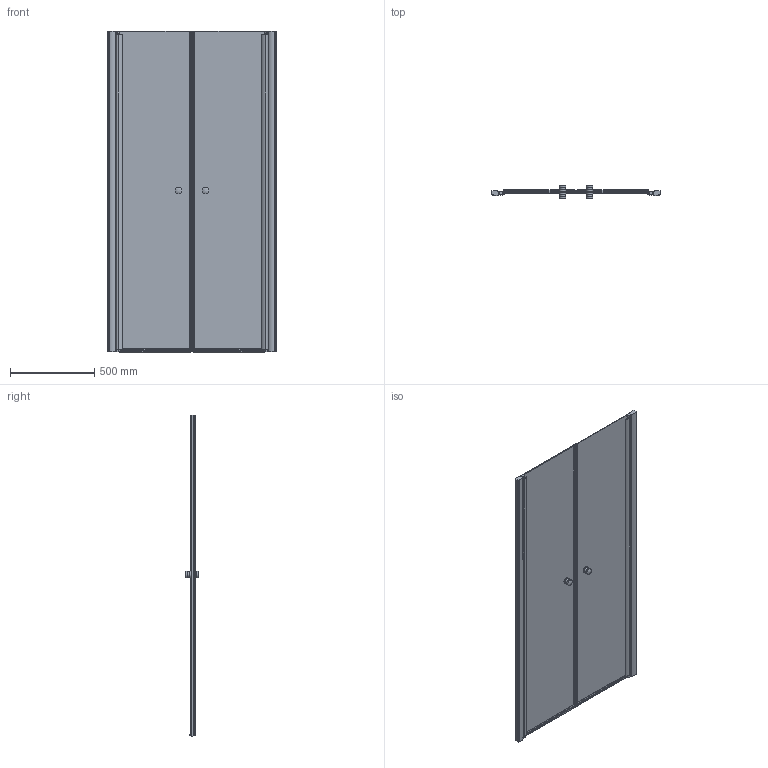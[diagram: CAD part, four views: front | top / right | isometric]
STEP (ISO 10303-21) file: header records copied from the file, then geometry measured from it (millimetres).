
FILE_DESCRIPTION(/* description */ (''),/* implementation_level */ '2;1');
FILE_NAME(/* name */ 'E:\Работа\Сергей\Душевые кабинки\! Работа\AAAA\LUX DOOR GK-602\LUX DOOR GK-602-3D.stp',/* time_stamp */ '2018-04-08T10:49:25+03:00',/* author */ ('PC'),/* organization */ (''),/* preprocessor_version */ 'ST-DEVELOPER v15.2',/* originating_system */ 'Autodesk Inventor 2014',/* authorisation */ '');
FILE_SCHEMA (('AUTOMOTIVE_DESIGN { 1 0 10303 214 3 1 1 }'));
Length unit declared in the file: millimetre
Products named in the file (1): LUX DOOR GK-602-3D
Bounding box: 1000 x 80 x 1904.24 mm (x, y, z)
Volume: 16287800.9 mm3; surface area: 4546153.4 mm2
Topology: 5 solids, 5 shells, 496 faces, 1464 edges, 961 vertices
Faces by surface type: plane 318, cylinder 162, cone 8, torus 4, sphere 4
Full cylindrical faces by diameter (mm): 5 x2, 7.8 x2, 16.9 x1, 19 x1, 38 x8
Entity records: 17185 total; most frequent: CARTESIAN_POINT 3084, ORIENTED_EDGE 2886, DIRECTION 2822, EDGE_CURVE 1441, LINE 1018, VECTOR 1018, VERTEX_POINT 958, AXIS2_PLACEMENT_3D 902
